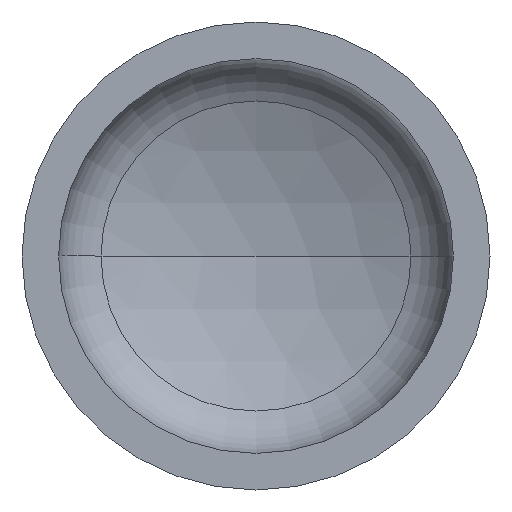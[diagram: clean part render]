
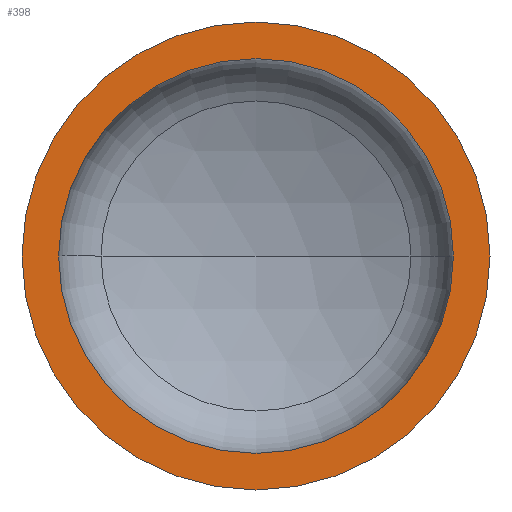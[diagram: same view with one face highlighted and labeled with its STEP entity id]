
A CAD part, front view. The second image highlights one B-rep face of the part: STEP entity #398.
In plain terms, the highlighted planar face has unit normal (0, -1, 0).
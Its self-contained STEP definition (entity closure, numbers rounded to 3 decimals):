
#9 = EDGE_LOOP ( 'NONE', ( #134, #397 ) ) ;
#16 = AXIS2_PLACEMENT_3D ( 'NONE', #163, #156, #160 ) ;
#44 = VERTEX_POINT ( 'NONE', #253 ) ;
#49 = ORIENTED_EDGE ( 'NONE', *, *, #64, .F. ) ;
#51 = AXIS2_PLACEMENT_3D ( 'NONE', #310, #184, #206 ) ;
#52 = AXIS2_PLACEMENT_3D ( 'NONE', #323, #320, #319 ) ;
#62 = EDGE_CURVE ( 'NONE', #126, #106, #94, .T. ) ;
#64 = EDGE_CURVE ( 'NONE', #127, #44, #380, .T. ) ;
#66 = DIRECTION ( 'NONE',  ( -1., 0., 0. ) ) ;
#77 = EDGE_LOOP ( 'NONE', ( #49, #107 ) ) ;
#94 = CIRCLE ( 'NONE', #52, 550. ) ;
#106 = VERTEX_POINT ( 'NONE', #297 ) ;
#107 = ORIENTED_EDGE ( 'NONE', *, *, #410, .F. ) ;
#126 = VERTEX_POINT ( 'NONE', #300 ) ;
#127 = VERTEX_POINT ( 'NONE', #225 ) ;
#129 = CARTESIAN_POINT ( 'NONE',  ( 0., 0., 0. ) ) ;
#130 = DIRECTION ( 'NONE',  ( 0., -1., 0. ) ) ;
#134 = ORIENTED_EDGE ( 'NONE', *, *, #342, .T. ) ;
#156 = DIRECTION ( 'NONE',  ( 0., -1., 0. ) ) ;
#160 = DIRECTION ( 'NONE',  ( 1., 0., 0. ) ) ;
#163 = CARTESIAN_POINT ( 'NONE',  ( 0., 0., 0. ) ) ;
#184 = DIRECTION ( 'NONE',  ( 0., -1., 0. ) ) ;
#188 = CIRCLE ( 'NONE', #309, 464. ) ;
#206 = DIRECTION ( 'NONE',  ( 1., 0., 0. ) ) ;
#225 = CARTESIAN_POINT ( 'NONE',  ( 464., 0., 0. ) ) ;
#253 = CARTESIAN_POINT ( 'NONE',  ( -464., 0., 0. ) ) ;
#263 = DIRECTION ( 'NONE',  ( 0., 1., 0. ) ) ;
#297 = CARTESIAN_POINT ( 'NONE',  ( 550., 0., 0. ) ) ;
#300 = CARTESIAN_POINT ( 'NONE',  ( -550., 0., 0. ) ) ;
#309 = AXIS2_PLACEMENT_3D ( 'NONE', #129, #130, #336 ) ;
#310 = CARTESIAN_POINT ( 'NONE',  ( 0., 0., 0. ) ) ;
#313 = PLANE ( 'NONE',  #324 ) ;
#318 = FACE_BOUND ( 'NONE', #77, .T. ) ;
#319 = DIRECTION ( 'NONE',  ( 1., 0., 0. ) ) ;
#320 = DIRECTION ( 'NONE',  ( 0., -1., 0. ) ) ;
#323 = CARTESIAN_POINT ( 'NONE',  ( 0., 0., 0. ) ) ;
#324 = AXIS2_PLACEMENT_3D ( 'NONE', #383, #263, #66 ) ;
#336 = DIRECTION ( 'NONE',  ( 1., 0., 0. ) ) ;
#342 = EDGE_CURVE ( 'NONE', #106, #126, #405, .T. ) ;
#376 = FACE_OUTER_BOUND ( 'NONE', #9, .T. ) ;
#380 = CIRCLE ( 'NONE', #51, 464. ) ;
#383 = CARTESIAN_POINT ( 'NONE',  ( -550., 0., 0. ) ) ;
#397 = ORIENTED_EDGE ( 'NONE', *, *, #62, .T. ) ;
#398 = ADVANCED_FACE ( 'NONE', ( #318, #376 ), #313, .F. ) ;
#405 = CIRCLE ( 'NONE', #16, 550. ) ;
#410 = EDGE_CURVE ( 'NONE', #44, #127, #188, .T. ) ;
